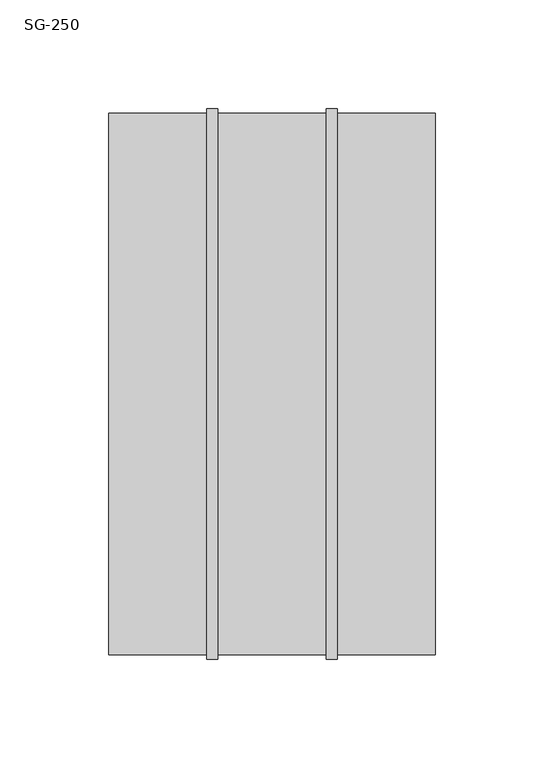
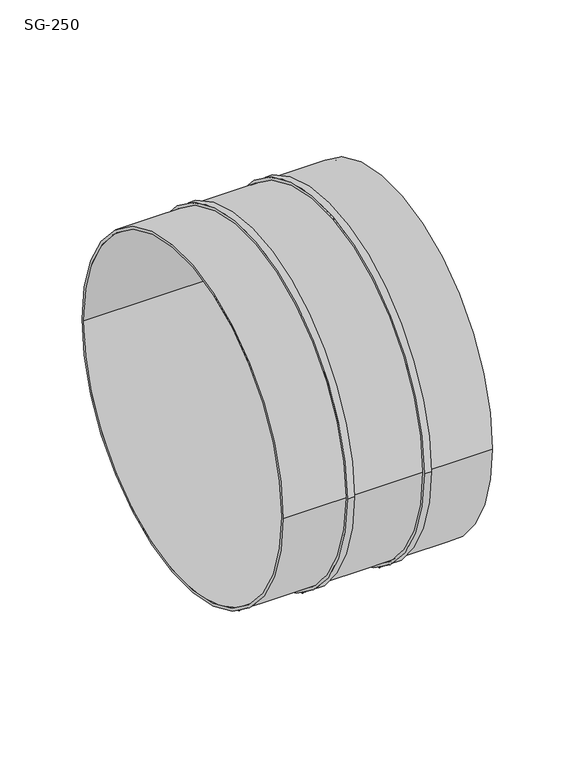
"""IFC4 building model written with IfcOpenShell, lengths in millimetres: damper geometry, СВ_ГибкаяВставка_КанальнаяКруглая_DN100-315_SG : SG-250."""

from ifc_helpers import new_model, si_unit, point, frame, origin, origin_2d, place, context, project, spatial, circle_curve, trimmed, segment, composite_curve, outline, extrude, source, transform, mapped, element, save


def sg_250_57f15532(model_context):
    return source(origin(), model_context, "Body", "SweptSolid", [
        extrude(outline(composite_curve([segment(trimmed(circle_curve(origin_2d(), 126.5), [point((-126.5, 0.0))], [point((126.5, 0.0))], False, "CARTESIAN"), True, "CONTINUOUS"), segment(trimmed(circle_curve(origin_2d(), 126.5), [point((126.5, 0.0))], [point((-126.5, 0.0))], False, "CARTESIAN"), True, "CONTINUOUS")], self_intersect=False), holes=[composite_curve([segment(trimmed(circle_curve(origin_2d(), 124.5), [point((-124.5, 0.0))], [point((124.5, 0.0))], True, "CARTESIAN"), True, "CONTINUOUS"), segment(trimmed(circle_curve(origin_2d(), 124.5), [point((124.5, 0.0))], [point((-124.5, 0.0))], True, "CARTESIAN"), True, "CONTINUOUS")], self_intersect=False)]), frame((25.0, 0.0, 0.0), z_axis=(1.0, 0.0, 0.0), x_axis=(0.0, 1.0, 0.0)), (0.0, 0.0, 1.0), 5.0),
        extrude(outline(composite_curve([segment(trimmed(circle_curve(origin_2d(), 126.5), [point((-126.5, 0.0))], [point((126.5, 0.0))], False, "CARTESIAN"), True, "CONTINUOUS"), segment(trimmed(circle_curve(origin_2d(), 126.5), [point((126.5, 0.0))], [point((-126.5, 0.0))], False, "CARTESIAN"), True, "CONTINUOUS")], self_intersect=False), holes=[composite_curve([segment(trimmed(circle_curve(origin_2d(), 124.5), [point((-124.5, 0.0))], [point((124.5, 0.0))], True, "CARTESIAN"), True, "CONTINUOUS"), segment(trimmed(circle_curve(origin_2d(), 124.5), [point((124.5, 0.0))], [point((-124.5, 0.0))], True, "CARTESIAN"), True, "CONTINUOUS")], self_intersect=False)]), frame((-30.0, 0.0, 0.0), z_axis=(1.0, 0.0, 0.0), x_axis=(0.0, 1.0, 0.0)), (0.0, 0.0, 1.0), 5.0),
        extrude(outline(composite_curve([segment(trimmed(circle_curve(origin_2d(), 124.5), [point((-124.5, 0.0))], [point((124.5, 0.0))], False, "CARTESIAN"), True, "CONTINUOUS"), segment(trimmed(circle_curve(origin_2d(), 124.5), [point((124.5, 0.0))], [point((-124.5, 0.0))], False, "CARTESIAN"), True, "CONTINUOUS")], self_intersect=False), holes=[composite_curve([segment(trimmed(circle_curve(origin_2d(), 122.5), [point((-122.5, 0.0))], [point((122.5, 0.0))], True, "CARTESIAN"), True, "CONTINUOUS"), segment(trimmed(circle_curve(origin_2d(), 122.5), [point((122.5, 0.0))], [point((-122.5, 0.0))], True, "CARTESIAN"), True, "CONTINUOUS")], self_intersect=False)]), frame((-75.0, 0.0, 0.0), z_axis=(1.0, 0.0, 0.0), x_axis=(0.0, 1.0, 0.0)), (0.0, 0.0, 1.0), 150.0),
    ])


if __name__ == "__main__":
    model = new_model("IFC4")
    model_context = context("Model", 3, world=origin())
    ifc_project = project(units=[si_unit("LENGTHUNIT", "METRE", prefix="MILLI")], contexts=[model_context])
    site = spatial("IfcSite", under=ifc_project)
    building = spatial("IfcBuilding", under=site)
    placement = place(None, origin())
    sg_250_shape = sg_250_57f15532(model_context)
    element("IfcDamper", 1, ObjectType="СВ_ГибкаяВставка_КанальнаяКруглая_DN100-315_SG : SG-250", at=placement, inside=building, context=model_context, shape_type="MappedRepresentation", body=[
        mapped(sg_250_shape, transform((0.0, 0.0, 0.0), x_axis=(1.0, 0.0, 0.0), y_axis=(0.0, 1.0, 0.0), z_axis=(0.0, 0.0, 1.0))),
    ])
    save(model, "model.ifc")
